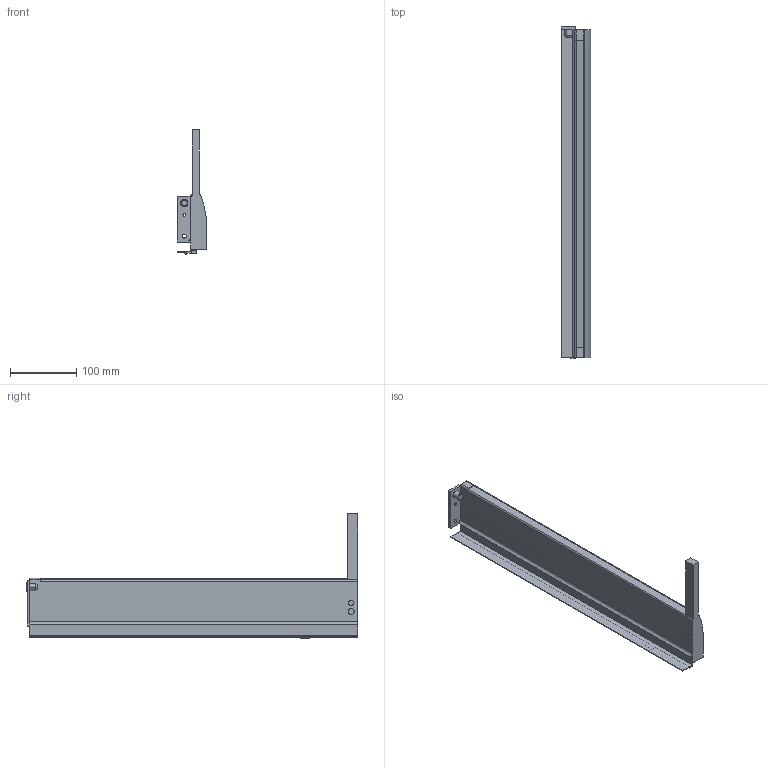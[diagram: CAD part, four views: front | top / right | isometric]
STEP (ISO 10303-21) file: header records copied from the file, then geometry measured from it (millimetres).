
FILE_DESCRIPTION (( 'STEP AP214' ), '1' );
FILE_NAME ('_IMOS_NOVA-Pro_Crystal_Dekor-H90_DL_NL500_RE.step', '2010-07-14T12:43:11', ( 'grass' ), ( '' ), 'SwSTEP 2.0', 'SolidWorks 2009', '' );
FILE_SCHEMA (( 'AUTOMOTIVE_DESIGN' ));
Length unit declared in the file: millimetre
Products named in the file (1): _IMOS_NOVA-Pro_Crystal_Dekor-H90_DL_NL500_RE
Bounding box: 44.3 x 502.7 x 188.49 mm (x, y, z)
Volume: 561607.6 mm3; surface area: 177061.2 mm2
Topology: 1 solids, 1 shells, 87 faces, 235 edges, 155 vertices
Faces by surface type: plane 55, cylinder 27, cone 4, bspline 1
Entity records: 2781 total; most frequent: CARTESIAN_POINT 499, ORIENTED_EDGE 470, DIRECTION 466, EDGE_CURVE 235, LINE 174, VECTOR 174, VERTEX_POINT 155, AXIS2_PLACEMENT_3D 146
